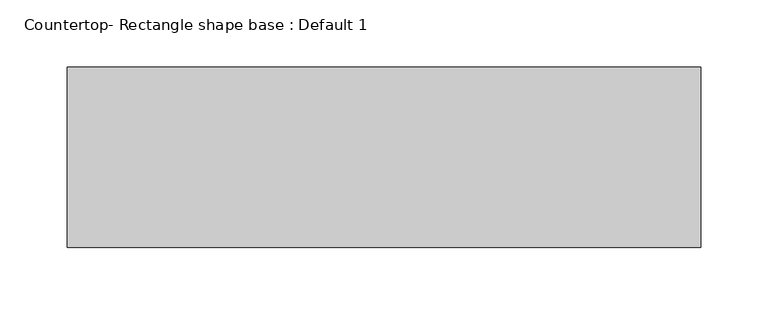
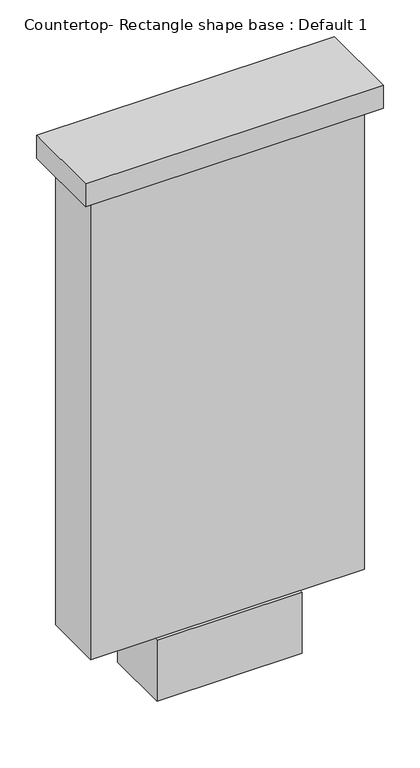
"""IFC4 building model written with IfcOpenShell, lengths in millimetres: proxy geometry, Countertop- Rectangle shape base : Default 1."""

from ifc_helpers import new_model, si_unit, frame, origin, origin_with_axes, place, context, project, spatial, polyline, outline, extrude, source, transform, mapped, element, save


def countertop_rectangle_shape_base_default_1_93e57330(model_context):
    return source(origin(), model_context, "Body", "SweptSolid", [
        extrude(outline(polyline([(526.6124016, 313.9445047), (526.6124016, 448.0554953), (997.3875984, 448.0554953), (997.3875984, 313.9445047), (526.6124016, 313.9445047)])), frame((0.0, 0.0, 876.3), z_axis=(0.0, 0.0, 1.0), x_axis=(1.0, 0.0, 0.0)), (0.0, 0.0, 1.0), 38.1),
        extrude(outline(polyline([(978.3375984, 429.0054953), (978.3375984, 332.9945047), (545.6624016, 332.9945047), (545.6624016, 429.0054953), (978.3375984, 429.0054953)])), frame((0.0, 0.0, 101.6), z_axis=(0.0, 0.0, 1.0), x_axis=(1.0, 0.0, 0.0)), (0.0, 0.0, 1.0), 774.7),
        extrude(outline(polyline([(876.7375984, 327.4054953), (647.2624016, 327.4054953), (647.2624016, 434.5945047), (876.7375984, 434.5945047), (876.7375984, 327.4054953)])), origin_with_axes(), (0.0, 0.0, 1.0), 101.6),
    ])


if __name__ == "__main__":
    model = new_model("IFC4")
    model_context = context("Model", 3, world=origin())
    ifc_project = project(units=[si_unit("LENGTHUNIT", "METRE", prefix="MILLI")], contexts=[model_context])
    site = spatial("IfcSite", under=ifc_project)
    building = spatial("IfcBuilding", under=site)
    placement = place(None, origin())
    countertop_rectangle_shape_base_default_1_shape = countertop_rectangle_shape_base_default_1_93e57330(model_context)
    element("IfcBuildingElementProxy", 1, Name="Countertop- Rectangle shape base : Default 1", ObjectType="Countertop- Rectangle shape base : Default 1", at=placement, inside=building, context=model_context, shape_type="MappedRepresentation", body=[
        mapped(countertop_rectangle_shape_base_default_1_shape, transform((0.0, 0.0, 0.0), x_axis=(1.0, 0.0, 0.0), y_axis=(0.0, 1.0, 0.0), z_axis=(0.0, 0.0, 1.0))),
    ])
    save(model, "model.ifc")
